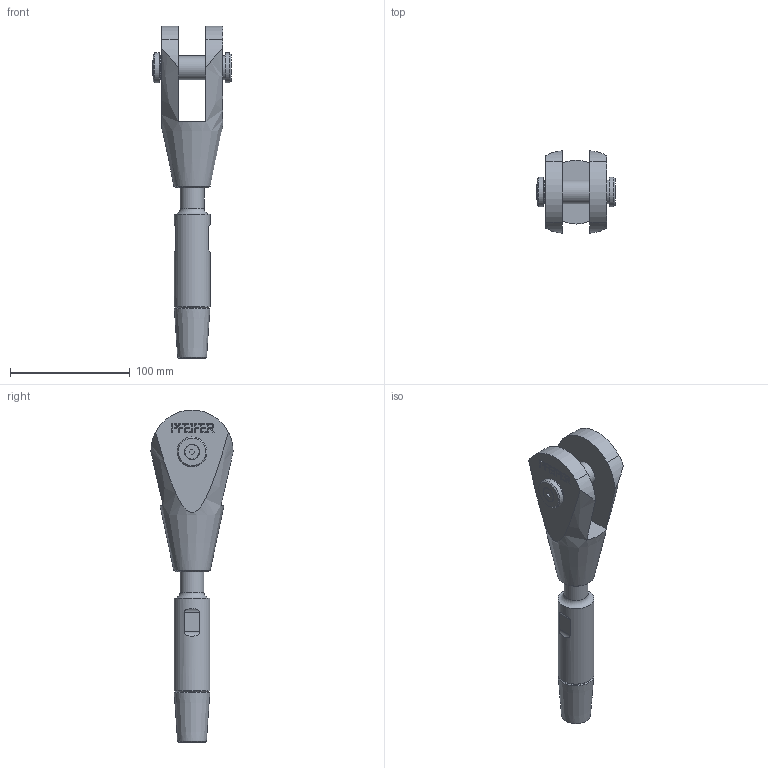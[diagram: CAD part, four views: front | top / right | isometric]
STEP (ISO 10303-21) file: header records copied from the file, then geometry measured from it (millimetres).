
FILE_DESCRIPTION(/* description */ (''),/* implementation_level */ '2;1');
FILE_NAME(/* name */ 'G:\Engineering\700 CAD\Internet-PX-1-step-igs-dxf\520-GAK-ADA-Arbeitsdateien\520-020-GAK-ADA.stp',/* time_stamp */ '2020-07-03T13:05:25+02:00',/* author */ ('schwarz'),/* organization */ (''),/* preprocessor_version */ 'ST-DEVELOPER v16.1',/* originating_system */ 'Autodesk Inventor 2016',/* authorisation */ '');
FILE_SCHEMA (('AUTOMOTIVE_DESIGN { 1 0 10303 214 3 1 1 }'));
Length unit declared in the file: centimetre
Products named in the file (1): 520-020-GAK-ADA-Kunde
Bounding box: 65.22 x 68.77 x 277.5 mm (x, y, z)
Volume: 277466.9 mm3; surface area: 52976.1 mm2
Topology: 2 solids, 3 shells, 197 faces, 506 edges, 337 vertices
Faces by surface type: plane 140, cylinder 22, bspline 21, cone 12, torus 2
Full cylindrical faces by diameter (mm): 4.917 x1, 6 x1, 6.8 x1, 12 x1, 20 x2, 21 x1, 22 x2, 25 x2, 30 x1
Entity records: 6164 total; most frequent: CARTESIAN_POINT 1408, ORIENTED_EDGE 942, DIRECTION 816, EDGE_CURVE 471, LINE 362, VECTOR 362, VERTEX_POINT 327, EDGE_LOOP 248
